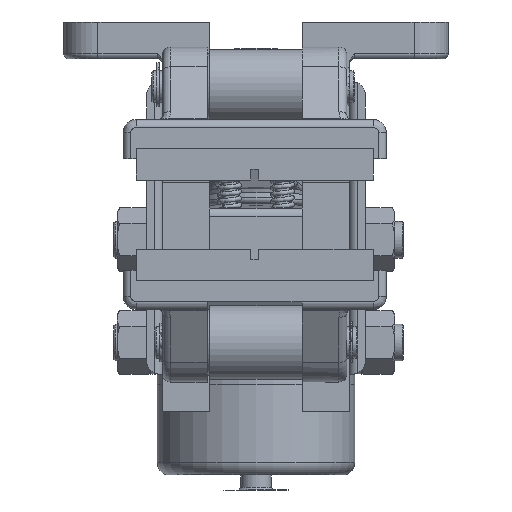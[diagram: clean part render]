
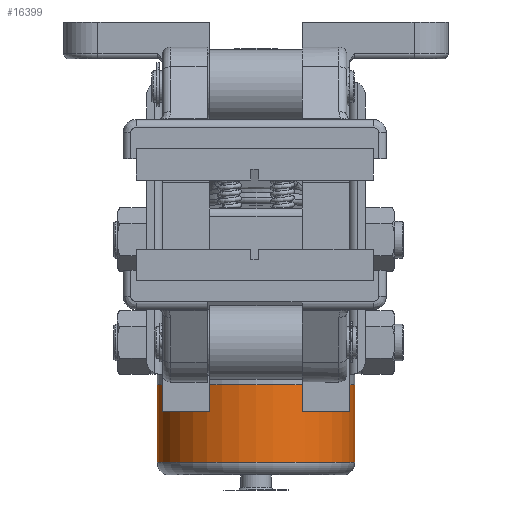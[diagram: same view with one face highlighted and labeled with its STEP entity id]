
A CAD part, front view. The second image highlights one B-rep face of the part: STEP entity #16399.
In plain terms, the highlighted cylindrical face has radius 37.5 mm (diameter 75 mm), a full revolution.
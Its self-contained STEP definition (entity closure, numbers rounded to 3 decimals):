
#2553=FACE_OUTER_BOUND('',#3539,.T.);
#3539=EDGE_LOOP('',(#15038,#15039,#15040,#15041,#15042,#15043,#15044));
#4470=CIRCLE('',#18089,37.5);
#4471=CIRCLE('',#18090,37.5);
#4511=CIRCLE('',#18147,37.5);
#4512=CIRCLE('',#18148,37.5);
#4513=CIRCLE('',#18149,37.5);
#5579=LINE('',#33587,#6646);
#6646=VECTOR('',#22625,37.5);
#8088=VERTEX_POINT('',#33444);
#8089=VERTEX_POINT('',#33445);
#8138=VERTEX_POINT('',#33579);
#8139=VERTEX_POINT('',#33581);
#8140=VERTEX_POINT('',#33583);
#10394=EDGE_CURVE('',#8088,#8089,#4470,.T.);
#10395=EDGE_CURVE('',#8089,#8088,#4471,.T.);
#10459=EDGE_CURVE('',#8138,#8139,#4511,.T.);
#10460=EDGE_CURVE('',#8139,#8140,#4512,.T.);
#10461=EDGE_CURVE('',#8140,#8138,#4513,.T.);
#10462=EDGE_CURVE('',#8139,#8088,#5579,.T.);
#15038=ORIENTED_EDGE('',*,*,#10461,.F.);
#15039=ORIENTED_EDGE('',*,*,#10460,.F.);
#15040=ORIENTED_EDGE('',*,*,#10462,.T.);
#15041=ORIENTED_EDGE('',*,*,#10394,.T.);
#15042=ORIENTED_EDGE('',*,*,#10395,.T.);
#15043=ORIENTED_EDGE('',*,*,#10462,.F.);
#15044=ORIENTED_EDGE('',*,*,#10459,.F.);
#15552=CYLINDRICAL_SURFACE('',#18150,37.5);
#16399=ADVANCED_FACE('',(#2553),#15552,.T.);
#18089=AXIS2_PLACEMENT_3D('',#33446,#22479,#22480);
#18090=AXIS2_PLACEMENT_3D('',#33447,#22481,#22482);
#18147=AXIS2_PLACEMENT_3D('',#33582,#22617,#22618);
#18148=AXIS2_PLACEMENT_3D('',#33584,#22619,#22620);
#18149=AXIS2_PLACEMENT_3D('',#33585,#22621,#22622);
#18150=AXIS2_PLACEMENT_3D('',#33586,#22623,#22624);
#22479=DIRECTION('center_axis',(0.,0.,
-1.));
#22480=DIRECTION('ref_axis',(1.,0.,0.));
#22481=DIRECTION('center_axis',(0.,0.,
-1.));
#22482=DIRECTION('ref_axis',(1.,0.,0.));
#22617=DIRECTION('center_axis',(0.,0.,
-1.));
#22618=DIRECTION('ref_axis',(-1.,0.,0.));
#22619=DIRECTION('center_axis',(0.,0.,
-1.));
#22620=DIRECTION('ref_axis',(-1.,0.,0.));
#22621=DIRECTION('center_axis',(0.,0.,
-1.));
#22622=DIRECTION('ref_axis',(-1.,0.,0.));
#22623=DIRECTION('center_axis',(0.,0.,
-1.));
#22624=DIRECTION('ref_axis',(-1.,0.,0.));
#22625=DIRECTION('',(0.,0.,1.));
#33444=CARTESIAN_POINT('',(84.5,140.,-62.85));
#33445=CARTESIAN_POINT('',(9.5,140.,-62.85));
#33446=CARTESIAN_POINT('Origin',(47.,140.,-62.85));
#33447=CARTESIAN_POINT('Origin',(47.,140.,-62.85));
#33579=CARTESIAN_POINT('',(47.,177.5,-92.315));
#33581=CARTESIAN_POINT('',(84.5,140.,-92.315));
#33582=CARTESIAN_POINT('Origin',(47.,140.,-92.315));
#33583=CARTESIAN_POINT('',(9.5,140.,-92.315));
#33584=CARTESIAN_POINT('Origin',(47.,140.,-92.315));
#33585=CARTESIAN_POINT('Origin',(47.,140.,-92.315));
#33586=CARTESIAN_POINT('Origin',(47.,140.,-77.582));
#33587=CARTESIAN_POINT('',(84.5,140.,-77.582));
